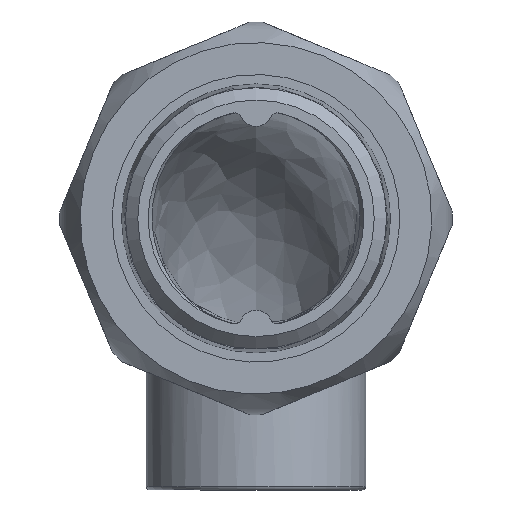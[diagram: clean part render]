
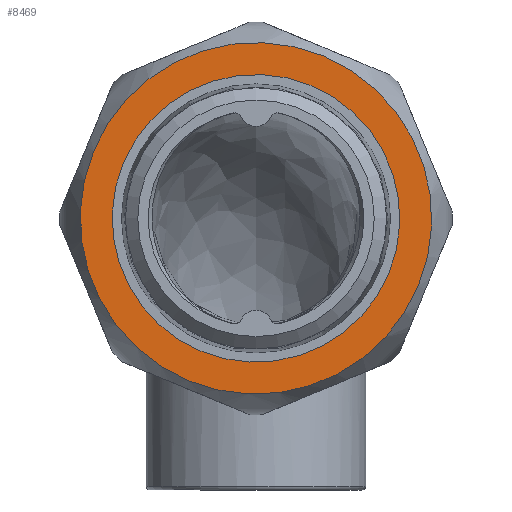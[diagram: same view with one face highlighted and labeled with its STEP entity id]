
A CAD part, left-side view. The second image highlights one B-rep face of the part: STEP entity #8469.
In plain terms, the highlighted planar face has unit normal (-1, 0, 0) as drawn and (1, 0, 0) by its records, which use the part's own axes.
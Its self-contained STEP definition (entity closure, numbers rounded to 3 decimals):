
#8435=CARTESIAN_POINT('',(18.0,22.0,0.0));
#8436=VERTEX_POINT('',#8435);
#8437=CARTESIAN_POINT('',(18.0,0.0,0.0));
#8438=DIRECTION('',(1.0,0.0,0.0));
#8439=DIRECTION('',(0.0,1.0,0.0));
#8440=AXIS2_PLACEMENT_3D('',#8437,#8438,#8439);
#8441=CIRCLE('',#8440,22.0);
#8442=EDGE_CURVE('',#8436,#8436,#8441,.T.);
#8450=CARTESIAN_POINT('',(18.0,20.0,0.0));
#8451=DIRECTION('',(1.0,0.0,0.0));
#8452=DIRECTION('',(0.0,0.0,-1.0));
#8453=AXIS2_PLACEMENT_3D('',#8450,#8451,#8452);
#8454=PLANE('',#8453);
#8455=ORIENTED_EDGE('',*,*,#8442,.T.);
#8456=EDGE_LOOP('',(#8455));
#8457=FACE_OUTER_BOUND('',#8456,.T.);
#8458=CARTESIAN_POINT('',(18.,18.0,0.0));
#8459=VERTEX_POINT('',#8458);
#8460=CARTESIAN_POINT('',(18.,0.0,0.0));
#8461=DIRECTION('',(1.0,0.0,0.0));
#8462=DIRECTION('',(0.0,1.0,0.0));
#8463=AXIS2_PLACEMENT_3D('',#8460,#8461,#8462);
#8464=CIRCLE('',#8463,18.0);
#8465=EDGE_CURVE('',#8459,#8459,#8464,.T.);
#8466=ORIENTED_EDGE('',*,*,#8465,.F.);
#8467=EDGE_LOOP('',(#8466));
#8468=FACE_BOUND('',#8467,.T.);
#8469=ADVANCED_FACE('',(#8457,#8468),#8454,.T.);
